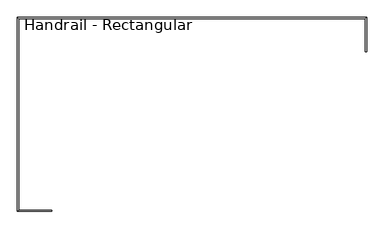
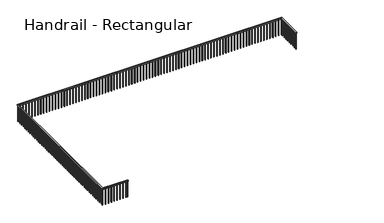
"""IFC4 building model written with IfcOpenShell, lengths in millimetres: railing geometry, Handrail - Rectangular."""

from ifc_helpers import new_model, si_unit, frame, origin, place, context, project, spatial, polyline, outline, extrude, faceted_brep, source, transform, mapped, element, save


def handrail_rectangular_5e4642fa(model_context):
    return source(origin(), model_context, "Body", "SolidModel", [
        faceted_brep([(-18781.6839563, 10624.0316867, 3962.4), (-18781.6839563, 10624.0316867, 3911.6), (-18730.8839563, 10624.0316867, 3911.6), (-18730.8839563, 10624.0316867, 3962.4), (-18730.8839563, 11970.2316867, 3962.4), (-18781.6839563, 11919.4316867, 3962.4), (-18730.8839563, 11970.2316867, 3911.6), (-18781.6839563, 11919.4316867, 3911.6), (-32446.8839563, 11970.2316867, 3962.4), (-32396.0839563, 11919.4316867, 3962.4), (-32446.8839563, 11970.2316867, 3911.6), (-32396.0839563, 11919.4316867, 3911.6), (-32446.8839563, 4350.2316867, 3962.4), (-32396.0839563, 4401.0316867, 3962.4), (-32446.8839563, 4350.2316867, 3911.6), (-32396.0839563, 4401.0316867, 3911.6), (-31100.6839563, 4401.0316867, 3962.4), (-31100.6839563, 4350.2316867, 3962.4), (-31100.6839563, 4350.2316867, 3911.6), (-31100.6839563, 4401.0316867, 3911.6)], [[[0, 1, 2, 3]], [[0, 3, 4, 5]], [[3, 2, 6, 4]], [[2, 1, 7, 6]], [[1, 0, 5, 7]], [[5, 4, 8, 9]], [[4, 6, 10, 8]], [[6, 7, 11, 10]], [[7, 5, 9, 11]], [[9, 8, 12, 13]], [[8, 10, 14, 12]], [[10, 11, 15, 14]], [[11, 9, 13, 15]], [[16, 17, 18, 19]], [[13, 12, 17, 16]], [[12, 14, 18, 17]], [[14, 15, 19, 18]], [[15, 13, 16, 19]]]),
        extrude(outline(polyline([(-31211.8089563, 4385.1566867), (-31192.7589563, 4385.1566867), (-31192.7589563, 4366.1066867), (-31211.8089563, 4366.1066867), (-31211.8089563, 4385.1566867)])), frame((0.0, 0.0, 3048.0), z_axis=(0.0, 0.0, 1.0), x_axis=(1.0, 0.0, 0.0)), (0.0, 0.0, 1.0), 863.6),
        extrude(outline(polyline([(-31364.2089563, 4385.1566867), (-31345.1589563, 4385.1566867), (-31345.1589563, 4366.1066867), (-31364.2089563, 4366.1066867), (-31364.2089563, 4385.1566867)])), frame((0.0, 0.0, 3048.0), z_axis=(0.0, 0.0, 1.0), x_axis=(1.0, 0.0, 0.0)), (0.0, 0.0, 1.0), 863.6),
        extrude(outline(polyline([(-31516.6089563, 4385.1566867), (-31497.5589563, 4385.1566867), (-31497.5589563, 4366.1066867), (-31516.6089563, 4366.1066867), (-31516.6089563, 4385.1566867)])), frame((0.0, 0.0, 3048.0), z_axis=(0.0, 0.0, 1.0), x_axis=(1.0, 0.0, 0.0)), (0.0, 0.0, 1.0), 863.6),
        extrude(outline(polyline([(-31669.0089563, 4385.1566867), (-31649.9589563, 4385.1566867), (-31649.9589563, 4366.1066867), (-31669.0089563, 4366.1066867), (-31669.0089563, 4385.1566867)])), frame((0.0, 0.0, 3048.0), z_axis=(0.0, 0.0, 1.0), x_axis=(1.0, 0.0, 0.0)), (0.0, 0.0, 1.0), 863.6),
        extrude(outline(polyline([(-31821.4089563, 4385.1566867), (-31802.3589563, 4385.1566867), (-31802.3589563, 4366.1066867), (-31821.4089563, 4366.1066867), (-31821.4089563, 4385.1566867)])), frame((0.0, 0.0, 3048.0), z_axis=(0.0, 0.0, 1.0), x_axis=(1.0, 0.0, 0.0)), (0.0, 0.0, 1.0), 863.6),
        extrude(outline(polyline([(-31973.8089563, 4385.1566867), (-31954.7589563, 4385.1566867), (-31954.7589563, 4366.1066867), (-31973.8089563, 4366.1066867), (-31973.8089563, 4385.1566867)])), frame((0.0, 0.0, 3048.0), z_axis=(0.0, 0.0, 1.0), x_axis=(1.0, 0.0, 0.0)), (0.0, 0.0, 1.0), 863.6),
        extrude(outline(polyline([(-32126.2089563, 4385.1566867), (-32107.1589563, 4385.1566867), (-32107.1589563, 4366.1066867), (-32126.2089563, 4366.1066867), (-32126.2089563, 4385.1566867)])), frame((0.0, 0.0, 3048.0), z_axis=(0.0, 0.0, 1.0), x_axis=(1.0, 0.0, 0.0)), (0.0, 0.0, 1.0), 863.6),
        extrude(outline(polyline([(-32278.6089563, 4385.1566867), (-32259.5589563, 4385.1566867), (-32259.5589563, 4366.1066867), (-32278.6089563, 4366.1066867), (-32278.6089563, 4385.1566867)])), frame((0.0, 0.0, 3048.0), z_axis=(0.0, 0.0, 1.0), x_axis=(1.0, 0.0, 0.0)), (0.0, 0.0, 1.0), 863.6),
        extrude(outline(polyline([(-32411.9589563, 4486.7566867), (-32411.9589563, 4467.7066867), (-32431.0089563, 4467.7066867), (-32431.0089563, 4486.7566867), (-32411.9589563, 4486.7566867)])), frame((0.0, 0.0, 3048.0), z_axis=(0.0, 0.0, 1.0), x_axis=(1.0, 0.0, 0.0)), (0.0, 0.0, 1.0), 863.6),
        extrude(outline(polyline([(-32411.9589563, 4639.1566867), (-32411.9589563, 4620.1066867), (-32431.0089563, 4620.1066867), (-32431.0089563, 4639.1566867), (-32411.9589563, 4639.1566867)])), frame((0.0, 0.0, 3048.0), z_axis=(0.0, 0.0, 1.0), x_axis=(1.0, 0.0, 0.0)), (0.0, 0.0, 1.0), 863.6),
        extrude(outline(polyline([(-32411.9589563, 4791.5566867), (-32411.9589563, 4772.5066867), (-32431.0089563, 4772.5066867), (-32431.0089563, 4791.5566867), (-32411.9589563, 4791.5566867)])), frame((0.0, 0.0, 3048.0), z_axis=(0.0, 0.0, 1.0), x_axis=(1.0, 0.0, 0.0)), (0.0, 0.0, 1.0), 863.6),
        extrude(outline(polyline([(-32411.9589563, 4943.9566867), (-32411.9589563, 4924.9066867), (-32431.0089563, 4924.9066867), (-32431.0089563, 4943.9566867), (-32411.9589563, 4943.9566867)])), frame((0.0, 0.0, 3048.0), z_axis=(0.0, 0.0, 1.0), x_axis=(1.0, 0.0, 0.0)), (0.0, 0.0, 1.0), 863.6),
        extrude(outline(polyline([(-32411.9589563, 5096.3566867), (-32411.9589563, 5077.3066867), (-32431.0089563, 5077.3066867), (-32431.0089563, 5096.3566867), (-32411.9589563, 5096.3566867)])), frame((0.0, 0.0, 3048.0), z_axis=(0.0, 0.0, 1.0), x_axis=(1.0, 0.0, 0.0)), (0.0, 0.0, 1.0), 863.6),
        extrude(outline(polyline([(-32411.9589563, 5248.7566867), (-32411.9589563, 5229.7066867), (-32431.0089563, 5229.7066867), (-32431.0089563, 5248.7566867), (-32411.9589563, 5248.7566867)])), frame((0.0, 0.0, 3048.0), z_axis=(0.0, 0.0, 1.0), x_axis=(1.0, 0.0, 0.0)), (0.0, 0.0, 1.0), 863.6),
        extrude(outline(polyline([(-32411.9589563, 5401.1566867), (-32411.9589563, 5382.1066867), (-32431.0089563, 5382.1066867), (-32431.0089563, 5401.1566867), (-32411.9589563, 5401.1566867)])), frame((0.0, 0.0, 3048.0), z_axis=(0.0, 0.0, 1.0), x_axis=(1.0, 0.0, 0.0)), (0.0, 0.0, 1.0), 863.6),
        extrude(outline(polyline([(-32411.9589563, 5553.5566867), (-32411.9589563, 5534.5066867), (-32431.0089563, 5534.5066867), (-32431.0089563, 5553.5566867), (-32411.9589563, 5553.5566867)])), frame((0.0, 0.0, 3048.0), z_axis=(0.0, 0.0, 1.0), x_axis=(1.0, 0.0, 0.0)), (0.0, 0.0, 1.0), 863.6),
        extrude(outline(polyline([(-32411.9589563, 5705.9566867), (-32411.9589563, 5686.9066867), (-32431.0089563, 5686.9066867), (-32431.0089563, 5705.9566867), (-32411.9589563, 5705.9566867)])), frame((0.0, 0.0, 3048.0), z_axis=(0.0, 0.0, 1.0), x_axis=(1.0, 0.0, 0.0)), (0.0, 0.0, 1.0), 863.6),
        extrude(outline(polyline([(-32411.9589563, 5858.3566867), (-32411.9589563, 5839.3066867), (-32431.0089563, 5839.3066867), (-32431.0089563, 5858.3566867), (-32411.9589563, 5858.3566867)])), frame((0.0, 0.0, 3048.0), z_axis=(0.0, 0.0, 1.0), x_axis=(1.0, 0.0, 0.0)), (0.0, 0.0, 1.0), 863.6),
        extrude(outline(polyline([(-32411.9589563, 6010.7566867), (-32411.9589563, 5991.7066867), (-32431.0089563, 5991.7066867), (-32431.0089563, 6010.7566867), (-32411.9589563, 6010.7566867)])), frame((0.0, 0.0, 3048.0), z_axis=(0.0, 0.0, 1.0), x_axis=(1.0, 0.0, 0.0)), (0.0, 0.0, 1.0), 863.6),
        extrude(outline(polyline([(-32411.9589563, 6163.1566867), (-32411.9589563, 6144.1066867), (-32431.0089563, 6144.1066867), (-32431.0089563, 6163.1566867), (-32411.9589563, 6163.1566867)])), frame((0.0, 0.0, 3048.0), z_axis=(0.0, 0.0, 1.0), x_axis=(1.0, 0.0, 0.0)), (0.0, 0.0, 1.0), 863.6),
        extrude(outline(polyline([(-32411.9589563, 6315.5566867), (-32411.9589563, 6296.5066867), (-32431.0089563, 6296.5066867), (-32431.0089563, 6315.5566867), (-32411.9589563, 6315.5566867)])), frame((0.0, 0.0, 3048.0), z_axis=(0.0, 0.0, 1.0), x_axis=(1.0, 0.0, 0.0)), (0.0, 0.0, 1.0), 863.6),
        extrude(outline(polyline([(-32411.9589563, 6467.9566867), (-32411.9589563, 6448.9066867), (-32431.0089563, 6448.9066867), (-32431.0089563, 6467.9566867), (-32411.9589563, 6467.9566867)])), frame((0.0, 0.0, 3048.0), z_axis=(0.0, 0.0, 1.0), x_axis=(1.0, 0.0, 0.0)), (0.0, 0.0, 1.0), 863.6),
        extrude(outline(polyline([(-32411.9589563, 6620.3566867), (-32411.9589563, 6601.3066867), (-32431.0089563, 6601.3066867), (-32431.0089563, 6620.3566867), (-32411.9589563, 6620.3566867)])), frame((0.0, 0.0, 3048.0), z_axis=(0.0, 0.0, 1.0), x_axis=(1.0, 0.0, 0.0)), (0.0, 0.0, 1.0), 863.6),
        extrude(outline(polyline([(-32411.9589563, 6772.7566867), (-32411.9589563, 6753.7066867), (-32431.0089563, 6753.7066867), (-32431.0089563, 6772.7566867), (-32411.9589563, 6772.7566867)])), frame((0.0, 0.0, 3048.0), z_axis=(0.0, 0.0, 1.0), x_axis=(1.0, 0.0, 0.0)), (0.0, 0.0, 1.0), 863.6),
        extrude(outline(polyline([(-32411.9589563, 6925.1566867), (-32411.9589563, 6906.1066867), (-32431.0089563, 6906.1066867), (-32431.0089563, 6925.1566867), (-32411.9589563, 6925.1566867)])), frame((0.0, 0.0, 3048.0), z_axis=(0.0, 0.0, 1.0), x_axis=(1.0, 0.0, 0.0)), (0.0, 0.0, 1.0), 863.6),
        extrude(outline(polyline([(-32411.9589563, 7077.5566867), (-32411.9589563, 7058.5066867), (-32431.0089563, 7058.5066867), (-32431.0089563, 7077.5566867), (-32411.9589563, 7077.5566867)])), frame((0.0, 0.0, 3048.0), z_axis=(0.0, 0.0, 1.0), x_axis=(1.0, 0.0, 0.0)), (0.0, 0.0, 1.0), 863.6),
        extrude(outline(polyline([(-32411.9589563, 7229.9566867), (-32411.9589563, 7210.9066867), (-32431.0089563, 7210.9066867), (-32431.0089563, 7229.9566867), (-32411.9589563, 7229.9566867)])), frame((0.0, 0.0, 3048.0), z_axis=(0.0, 0.0, 1.0), x_axis=(1.0, 0.0, 0.0)), (0.0, 0.0, 1.0), 863.6),
        extrude(outline(polyline([(-32411.9589563, 7382.3566867), (-32411.9589563, 7363.3066867), (-32431.0089563, 7363.3066867), (-32431.0089563, 7382.3566867), (-32411.9589563, 7382.3566867)])), frame((0.0, 0.0, 3048.0), z_axis=(0.0, 0.0, 1.0), x_axis=(1.0, 0.0, 0.0)), (0.0, 0.0, 1.0), 863.6),
        extrude(outline(polyline([(-32411.9589563, 7534.7566867), (-32411.9589563, 7515.7066867), (-32431.0089563, 7515.7066867), (-32431.0089563, 7534.7566867), (-32411.9589563, 7534.7566867)])), frame((0.0, 0.0, 3048.0), z_axis=(0.0, 0.0, 1.0), x_axis=(1.0, 0.0, 0.0)), (0.0, 0.0, 1.0), 863.6),
        extrude(outline(polyline([(-32411.9589563, 7687.1566867), (-32411.9589563, 7668.1066867), (-32431.0089563, 7668.1066867), (-32431.0089563, 7687.1566867), (-32411.9589563, 7687.1566867)])), frame((0.0, 0.0, 3048.0), z_axis=(0.0, 0.0, 1.0), x_axis=(1.0, 0.0, 0.0)), (0.0, 0.0, 1.0), 863.6),
        extrude(outline(polyline([(-32411.9589563, 7839.5566867), (-32411.9589563, 7820.5066867), (-32431.0089563, 7820.5066867), (-32431.0089563, 7839.5566867), (-32411.9589563, 7839.5566867)])), frame((0.0, 0.0, 3048.0), z_axis=(0.0, 0.0, 1.0), x_axis=(1.0, 0.0, 0.0)), (0.0, 0.0, 1.0), 863.6),
        extrude(outline(polyline([(-32411.9589563, 7991.9566867), (-32411.9589563, 7972.9066867), (-32431.0089563, 7972.9066867), (-32431.0089563, 7991.9566867), (-32411.9589563, 7991.9566867)])), frame((0.0, 0.0, 3048.0), z_axis=(0.0, 0.0, 1.0), x_axis=(1.0, 0.0, 0.0)), (0.0, 0.0, 1.0), 863.6),
        extrude(outline(polyline([(-32411.9589563, 8144.3566867), (-32411.9589563, 8125.3066867), (-32431.0089563, 8125.3066867), (-32431.0089563, 8144.3566867), (-32411.9589563, 8144.3566867)])), frame((0.0, 0.0, 3048.0), z_axis=(0.0, 0.0, 1.0), x_axis=(1.0, 0.0, 0.0)), (0.0, 0.0, 1.0), 863.6),
        extrude(outline(polyline([(-32411.9589563, 8296.7566867), (-32411.9589563, 8277.7066867), (-32431.0089563, 8277.7066867), (-32431.0089563, 8296.7566867), (-32411.9589563, 8296.7566867)])), frame((0.0, 0.0, 3048.0), z_axis=(0.0, 0.0, 1.0), x_axis=(1.0, 0.0, 0.0)), (0.0, 0.0, 1.0), 863.6),
        extrude(outline(polyline([(-32411.9589563, 8449.1566867), (-32411.9589563, 8430.1066867), (-32431.0089563, 8430.1066867), (-32431.0089563, 8449.1566867), (-32411.9589563, 8449.1566867)])), frame((0.0, 0.0, 3048.0), z_axis=(0.0, 0.0, 1.0), x_axis=(1.0, 0.0, 0.0)), (0.0, 0.0, 1.0), 863.6),
        extrude(outline(polyline([(-32411.9589563, 8601.5566867), (-32411.9589563, 8582.5066867), (-32431.0089563, 8582.5066867), (-32431.0089563, 8601.5566867), (-32411.9589563, 8601.5566867)])), frame((0.0, 0.0, 3048.0), z_axis=(0.0, 0.0, 1.0), x_axis=(1.0, 0.0, 0.0)), (0.0, 0.0, 1.0), 863.6),
        extrude(outline(polyline([(-32411.9589563, 8753.9566867), (-32411.9589563, 8734.9066867), (-32431.0089563, 8734.9066867), (-32431.0089563, 8753.9566867), (-32411.9589563, 8753.9566867)])), frame((0.0, 0.0, 3048.0), z_axis=(0.0, 0.0, 1.0), x_axis=(1.0, 0.0, 0.0)), (0.0, 0.0, 1.0), 863.6),
        extrude(outline(polyline([(-32411.9589563, 8906.3566867), (-32411.9589563, 8887.3066867), (-32431.0089563, 8887.3066867), (-32431.0089563, 8906.3566867), (-32411.9589563, 8906.3566867)])), frame((0.0, 0.0, 3048.0), z_axis=(0.0, 0.0, 1.0), x_axis=(1.0, 0.0, 0.0)), (0.0, 0.0, 1.0), 863.6),
        extrude(outline(polyline([(-32411.9589563, 9058.7566867), (-32411.9589563, 9039.7066867), (-32431.0089563, 9039.7066867), (-32431.0089563, 9058.7566867), (-32411.9589563, 9058.7566867)])), frame((0.0, 0.0, 3048.0), z_axis=(0.0, 0.0, 1.0), x_axis=(1.0, 0.0, 0.0)), (0.0, 0.0, 1.0), 863.6),
        extrude(outline(polyline([(-32411.9589563, 9211.1566867), (-32411.9589563, 9192.1066867), (-32431.0089563, 9192.1066867), (-32431.0089563, 9211.1566867), (-32411.9589563, 9211.1566867)])), frame((0.0, 0.0, 3048.0), z_axis=(0.0, 0.0, 1.0), x_axis=(1.0, 0.0, 0.0)), (0.0, 0.0, 1.0), 863.6),
        extrude(outline(polyline([(-32411.9589563, 9363.5566867), (-32411.9589563, 9344.5066867), (-32431.0089563, 9344.5066867), (-32431.0089563, 9363.5566867), (-32411.9589563, 9363.5566867)])), frame((0.0, 0.0, 3048.0), z_axis=(0.0, 0.0, 1.0), x_axis=(1.0, 0.0, 0.0)), (0.0, 0.0, 1.0), 863.6),
        extrude(outline(polyline([(-32411.9589563, 9515.9566867), (-32411.9589563, 9496.9066867), (-32431.0089563, 9496.9066867), (-32431.0089563, 9515.9566867), (-32411.9589563, 9515.9566867)])), frame((0.0, 0.0, 3048.0), z_axis=(0.0, 0.0, 1.0), x_axis=(1.0, 0.0, 0.0)), (0.0, 0.0, 1.0), 863.6),
        extrude(outline(polyline([(-32411.9589563, 9668.3566867), (-32411.9589563, 9649.3066867), (-32431.0089563, 9649.3066867), (-32431.0089563, 9668.3566867), (-32411.9589563, 9668.3566867)])), frame((0.0, 0.0, 3048.0), z_axis=(0.0, 0.0, 1.0), x_axis=(1.0, 0.0, 0.0)), (0.0, 0.0, 1.0), 863.6),
        extrude(outline(polyline([(-32411.9589563, 9820.7566867), (-32411.9589563, 9801.7066867), (-32431.0089563, 9801.7066867), (-32431.0089563, 9820.7566867), (-32411.9589563, 9820.7566867)])), frame((0.0, 0.0, 3048.0), z_axis=(0.0, 0.0, 1.0), x_axis=(1.0, 0.0, 0.0)), (0.0, 0.0, 1.0), 863.6),
        extrude(outline(polyline([(-32411.9589563, 9973.1566867), (-32411.9589563, 9954.1066867), (-32431.0089563, 9954.1066867), (-32431.0089563, 9973.1566867), (-32411.9589563, 9973.1566867)])), frame((0.0, 0.0, 3048.0), z_axis=(0.0, 0.0, 1.0), x_axis=(1.0, 0.0, 0.0)), (0.0, 0.0, 1.0), 863.6),
        extrude(outline(polyline([(-32411.9589563, 10125.5566867), (-32411.9589563, 10106.5066867), (-32431.0089563, 10106.5066867), (-32431.0089563, 10125.5566867), (-32411.9589563, 10125.5566867)])), frame((0.0, 0.0, 3048.0), z_axis=(0.0, 0.0, 1.0), x_axis=(1.0, 0.0, 0.0)), (0.0, 0.0, 1.0), 863.6),
        extrude(outline(polyline([(-32411.9589563, 10277.9566867), (-32411.9589563, 10258.9066867), (-32431.0089563, 10258.9066867), (-32431.0089563, 10277.9566867), (-32411.9589563, 10277.9566867)])), frame((0.0, 0.0, 3048.0), z_axis=(0.0, 0.0, 1.0), x_axis=(1.0, 0.0, 0.0)), (0.0, 0.0, 1.0), 863.6),
        extrude(outline(polyline([(-32411.9589563, 10430.3566867), (-32411.9589563, 10411.3066867), (-32431.0089563, 10411.3066867), (-32431.0089563, 10430.3566867), (-32411.9589563, 10430.3566867)])), frame((0.0, 0.0, 3048.0), z_axis=(0.0, 0.0, 1.0), x_axis=(1.0, 0.0, 0.0)), (0.0, 0.0, 1.0), 863.6),
        extrude(outline(polyline([(-32411.9589563, 10582.7566867), (-32411.9589563, 10563.7066867), (-32431.0089563, 10563.7066867), (-32431.0089563, 10582.7566867), (-32411.9589563, 10582.7566867)])), frame((0.0, 0.0, 3048.0), z_axis=(0.0, 0.0, 1.0), x_axis=(1.0, 0.0, 0.0)), (0.0, 0.0, 1.0), 863.6),
        extrude(outline(polyline([(-32411.9589563, 10735.1566867), (-32411.9589563, 10716.1066867), (-32431.0089563, 10716.1066867), (-32431.0089563, 10735.1566867), (-32411.9589563, 10735.1566867)])), frame((0.0, 0.0, 3048.0), z_axis=(0.0, 0.0, 1.0), x_axis=(1.0, 0.0, 0.0)), (0.0, 0.0, 1.0), 863.6),
        extrude(outline(polyline([(-32411.9589563, 10887.5566867), (-32411.9589563, 10868.5066867), (-32431.0089563, 10868.5066867), (-32431.0089563, 10887.5566867), (-32411.9589563, 10887.5566867)])), frame((0.0, 0.0, 3048.0), z_axis=(0.0, 0.0, 1.0), x_axis=(1.0, 0.0, 0.0)), (0.0, 0.0, 1.0), 863.6),
        extrude(outline(polyline([(-32411.9589563, 11039.9566867), (-32411.9589563, 11020.9066867), (-32431.0089563, 11020.9066867), (-32431.0089563, 11039.9566867), (-32411.9589563, 11039.9566867)])), frame((0.0, 0.0, 3048.0), z_axis=(0.0, 0.0, 1.0), x_axis=(1.0, 0.0, 0.0)), (0.0, 0.0, 1.0), 863.6),
        extrude(outline(polyline([(-32411.9589563, 11192.3566867), (-32411.9589563, 11173.3066867), (-32431.0089563, 11173.3066867), (-32431.0089563, 11192.3566867), (-32411.9589563, 11192.3566867)])), frame((0.0, 0.0, 3048.0), z_axis=(0.0, 0.0, 1.0), x_axis=(1.0, 0.0, 0.0)), (0.0, 0.0, 1.0), 863.6),
        extrude(outline(polyline([(-32411.9589563, 11344.7566867), (-32411.9589563, 11325.7066867), (-32431.0089563, 11325.7066867), (-32431.0089563, 11344.7566867), (-32411.9589563, 11344.7566867)])), frame((0.0, 0.0, 3048.0), z_axis=(0.0, 0.0, 1.0), x_axis=(1.0, 0.0, 0.0)), (0.0, 0.0, 1.0), 863.6),
        extrude(outline(polyline([(-32411.9589563, 11497.1566867), (-32411.9589563, 11478.1066867), (-32431.0089563, 11478.1066867), (-32431.0089563, 11497.1566867), (-32411.9589563, 11497.1566867)])), frame((0.0, 0.0, 3048.0), z_axis=(0.0, 0.0, 1.0), x_axis=(1.0, 0.0, 0.0)), (0.0, 0.0, 1.0), 863.6),
        extrude(outline(polyline([(-32411.9589563, 11649.5566867), (-32411.9589563, 11630.5066867), (-32431.0089563, 11630.5066867), (-32431.0089563, 11649.5566867), (-32411.9589563, 11649.5566867)])), frame((0.0, 0.0, 3048.0), z_axis=(0.0, 0.0, 1.0), x_axis=(1.0, 0.0, 0.0)), (0.0, 0.0, 1.0), 863.6),
        extrude(outline(polyline([(-32411.9589563, 11801.9566867), (-32411.9589563, 11782.9066867), (-32431.0089563, 11782.9066867), (-32431.0089563, 11801.9566867), (-32411.9589563, 11801.9566867)])), frame((0.0, 0.0, 3048.0), z_axis=(0.0, 0.0, 1.0), x_axis=(1.0, 0.0, 0.0)), (0.0, 0.0, 1.0), 863.6),
        extrude(outline(polyline([(-32310.3589563, 11935.3066867), (-32329.4089563, 11935.3066867), (-32329.4089563, 11954.3566867), (-32310.3589563, 11954.3566867), (-32310.3589563, 11935.3066867)])), frame((0.0, 0.0, 3048.0), z_axis=(0.0, 0.0, 1.0), x_axis=(1.0, 0.0, 0.0)), (0.0, 0.0, 1.0), 863.6),
        extrude(outline(polyline([(-32157.9589563, 11935.3066867), (-32177.0089563, 11935.3066867), (-32177.0089563, 11954.3566867), (-32157.9589563, 11954.3566867), (-32157.9589563, 11935.3066867)])), frame((0.0, 0.0, 3048.0), z_axis=(0.0, 0.0, 1.0), x_axis=(1.0, 0.0, 0.0)), (0.0, 0.0, 1.0), 863.6),
        extrude(outline(polyline([(-32005.5589563, 11935.3066867), (-32024.6089563, 11935.3066867), (-32024.6089563, 11954.3566867), (-32005.5589563, 11954.3566867), (-32005.5589563, 11935.3066867)])), frame((0.0, 0.0, 3048.0), z_axis=(0.0, 0.0, 1.0), x_axis=(1.0, 0.0, 0.0)), (0.0, 0.0, 1.0), 863.6),
        extrude(outline(polyline([(-31853.1589563, 11935.3066867), (-31872.2089563, 11935.3066867), (-31872.2089563, 11954.3566867), (-31853.1589563, 11954.3566867), (-31853.1589563, 11935.3066867)])), frame((0.0, 0.0, 3048.0), z_axis=(0.0, 0.0, 1.0), x_axis=(1.0, 0.0, 0.0)), (0.0, 0.0, 1.0), 863.6),
        extrude(outline(polyline([(-31700.7589563, 11935.3066867), (-31719.8089563, 11935.3066867), (-31719.8089563, 11954.3566867), (-31700.7589563, 11954.3566867), (-31700.7589563, 11935.3066867)])), frame((0.0, 0.0, 3048.0), z_axis=(0.0, 0.0, 1.0), x_axis=(1.0, 0.0, 0.0)), (0.0, 0.0, 1.0), 863.6),
        extrude(outline(polyline([(-31548.3589563, 11935.3066867), (-31567.4089563, 11935.3066867), (-31567.4089563, 11954.3566867), (-31548.3589563, 11954.3566867), (-31548.3589563, 11935.3066867)])), frame((0.0, 0.0, 3048.0), z_axis=(0.0, 0.0, 1.0), x_axis=(1.0, 0.0, 0.0)), (0.0, 0.0, 1.0), 863.6),
        extrude(outline(polyline([(-31395.9589563, 11935.3066867), (-31415.0089563, 11935.3066867), (-31415.0089563, 11954.3566867), (-31395.9589563, 11954.3566867), (-31395.9589563, 11935.3066867)])), frame((0.0, 0.0, 3048.0), z_axis=(0.0, 0.0, 1.0), x_axis=(1.0, 0.0, 0.0)), (0.0, 0.0, 1.0), 863.6),
        extrude(outline(polyline([(-31243.5589563, 11935.3066867), (-31262.6089563, 11935.3066867), (-31262.6089563, 11954.3566867), (-31243.5589563, 11954.3566867), (-31243.5589563, 11935.3066867)])), frame((0.0, 0.0, 3048.0), z_axis=(0.0, 0.0, 1.0), x_axis=(1.0, 0.0, 0.0)), (0.0, 0.0, 1.0), 863.6),
        extrude(outline(polyline([(-31091.1589563, 11935.3066867), (-31110.2089563, 11935.3066867), (-31110.2089563, 11954.3566867), (-31091.1589563, 11954.3566867), (-31091.1589563, 11935.3066867)])), frame((0.0, 0.0, 3048.0), z_axis=(0.0, 0.0, 1.0), x_axis=(1.0, 0.0, 0.0)), (0.0, 0.0, 1.0), 863.6),
        extrude(outline(polyline([(-30938.7589563, 11935.3066867), (-30957.8089563, 11935.3066867), (-30957.8089563, 11954.3566867), (-30938.7589563, 11954.3566867), (-30938.7589563, 11935.3066867)])), frame((0.0, 0.0, 3048.0), z_axis=(0.0, 0.0, 1.0), x_axis=(1.0, 0.0, 0.0)), (0.0, 0.0, 1.0), 863.6),
        extrude(outline(polyline([(-30786.3589563, 11935.3066867), (-30805.4089563, 11935.3066867), (-30805.4089563, 11954.3566867), (-30786.3589563, 11954.3566867), (-30786.3589563, 11935.3066867)])), frame((0.0, 0.0, 3048.0), z_axis=(0.0, 0.0, 1.0), x_axis=(1.0, 0.0, 0.0)), (0.0, 0.0, 1.0), 863.6),
        extrude(outline(polyline([(-30633.9589563, 11935.3066867), (-30653.0089563, 11935.3066867), (-30653.0089563, 11954.3566867), (-30633.9589563, 11954.3566867), (-30633.9589563, 11935.3066867)])), frame((0.0, 0.0, 3048.0), z_axis=(0.0, 0.0, 1.0), x_axis=(1.0, 0.0, 0.0)), (0.0, 0.0, 1.0), 863.6),
        extrude(outline(polyline([(-30481.5589563, 11935.3066867), (-30500.6089563, 11935.3066867), (-30500.6089563, 11954.3566867), (-30481.5589563, 11954.3566867), (-30481.5589563, 11935.3066867)])), frame((0.0, 0.0, 3048.0), z_axis=(0.0, 0.0, 1.0), x_axis=(1.0, 0.0, 0.0)), (0.0, 0.0, 1.0), 863.6),
        extrude(outline(polyline([(-30329.1589563, 11935.3066867), (-30348.2089563, 11935.3066867), (-30348.2089563, 11954.3566867), (-30329.1589563, 11954.3566867), (-30329.1589563, 11935.3066867)])), frame((0.0, 0.0, 3048.0), z_axis=(0.0, 0.0, 1.0), x_axis=(1.0, 0.0, 0.0)), (0.0, 0.0, 1.0), 863.6),
        extrude(outline(polyline([(-30176.7589563, 11935.3066867), (-30195.8089563, 11935.3066867), (-30195.8089563, 11954.3566867), (-30176.7589563, 11954.3566867), (-30176.7589563, 11935.3066867)])), frame((0.0, 0.0, 3048.0), z_axis=(0.0, 0.0, 1.0), x_axis=(1.0, 0.0, 0.0)), (0.0, 0.0, 1.0), 863.6),
        extrude(outline(polyline([(-30024.3589563, 11935.3066867), (-30043.4089563, 11935.3066867), (-30043.4089563, 11954.3566867), (-30024.3589563, 11954.3566867), (-30024.3589563, 11935.3066867)])), frame((0.0, 0.0, 3048.0), z_axis=(0.0, 0.0, 1.0), x_axis=(1.0, 0.0, 0.0)), (0.0, 0.0, 1.0), 863.6),
        extrude(outline(polyline([(-29871.9589563, 11935.3066867), (-29891.0089563, 11935.3066867), (-29891.0089563, 11954.3566867), (-29871.9589563, 11954.3566867), (-29871.9589563, 11935.3066867)])), frame((0.0, 0.0, 3048.0), z_axis=(0.0, 0.0, 1.0), x_axis=(1.0, 0.0, 0.0)), (0.0, 0.0, 1.0), 863.6),
        extrude(outline(polyline([(-29719.5589563, 11935.3066867), (-29738.6089563, 11935.3066867), (-29738.6089563, 11954.3566867), (-29719.5589563, 11954.3566867), (-29719.5589563, 11935.3066867)])), frame((0.0, 0.0, 3048.0), z_axis=(0.0, 0.0, 1.0), x_axis=(1.0, 0.0, 0.0)), (0.0, 0.0, 1.0), 863.6),
        extrude(outline(polyline([(-29567.1589563, 11935.3066867), (-29586.2089563, 11935.3066867), (-29586.2089563, 11954.3566867), (-29567.1589563, 11954.3566867), (-29567.1589563, 11935.3066867)])), frame((0.0, 0.0, 3048.0), z_axis=(0.0, 0.0, 1.0), x_axis=(1.0, 0.0, 0.0)), (0.0, 0.0, 1.0), 863.6),
        extrude(outline(polyline([(-29414.7589563, 11935.3066867), (-29433.8089563, 11935.3066867), (-29433.8089563, 11954.3566867), (-29414.7589563, 11954.3566867), (-29414.7589563, 11935.3066867)])), frame((0.0, 0.0, 3048.0), z_axis=(0.0, 0.0, 1.0), x_axis=(1.0, 0.0, 0.0)), (0.0, 0.0, 1.0), 863.6),
        extrude(outline(polyline([(-29262.3589563, 11935.3066867), (-29281.4089563, 11935.3066867), (-29281.4089563, 11954.3566867), (-29262.3589563, 11954.3566867), (-29262.3589563, 11935.3066867)])), frame((0.0, 0.0, 3048.0), z_axis=(0.0, 0.0, 1.0), x_axis=(1.0, 0.0, 0.0)), (0.0, 0.0, 1.0), 863.6),
        extrude(outline(polyline([(-29109.9589563, 11935.3066867), (-29129.0089563, 11935.3066867), (-29129.0089563, 11954.3566867), (-29109.9589563, 11954.3566867), (-29109.9589563, 11935.3066867)])), frame((0.0, 0.0, 3048.0), z_axis=(0.0, 0.0, 1.0), x_axis=(1.0, 0.0, 0.0)), (0.0, 0.0, 1.0), 863.6),
        extrude(outline(polyline([(-28957.5589563, 11935.3066867), (-28976.6089563, 11935.3066867), (-28976.6089563, 11954.3566867), (-28957.5589563, 11954.3566867), (-28957.5589563, 11935.3066867)])), frame((0.0, 0.0, 3048.0), z_axis=(0.0, 0.0, 1.0), x_axis=(1.0, 0.0, 0.0)), (0.0, 0.0, 1.0), 863.6),
        extrude(outline(polyline([(-28805.1589563, 11935.3066867), (-28824.2089563, 11935.3066867), (-28824.2089563, 11954.3566867), (-28805.1589563, 11954.3566867), (-28805.1589563, 11935.3066867)])), frame((0.0, 0.0, 3048.0), z_axis=(0.0, 0.0, 1.0), x_axis=(1.0, 0.0, 0.0)), (0.0, 0.0, 1.0), 863.6),
        extrude(outline(polyline([(-28652.7589563, 11935.3066867), (-28671.8089563, 11935.3066867), (-28671.8089563, 11954.3566867), (-28652.7589563, 11954.3566867), (-28652.7589563, 11935.3066867)])), frame((0.0, 0.0, 3048.0), z_axis=(0.0, 0.0, 1.0), x_axis=(1.0, 0.0, 0.0)), (0.0, 0.0, 1.0), 863.6),
        extrude(outline(polyline([(-28500.3589563, 11935.3066867), (-28519.4089563, 11935.3066867), (-28519.4089563, 11954.3566867), (-28500.3589563, 11954.3566867), (-28500.3589563, 11935.3066867)])), frame((0.0, 0.0, 3048.0), z_axis=(0.0, 0.0, 1.0), x_axis=(1.0, 0.0, 0.0)), (0.0, 0.0, 1.0), 863.6),
        extrude(outline(polyline([(-28347.9589563, 11935.3066867), (-28367.0089563, 11935.3066867), (-28367.0089563, 11954.3566867), (-28347.9589563, 11954.3566867), (-28347.9589563, 11935.3066867)])), frame((0.0, 0.0, 3048.0), z_axis=(0.0, 0.0, 1.0), x_axis=(1.0, 0.0, 0.0)), (0.0, 0.0, 1.0), 863.6),
        extrude(outline(polyline([(-28195.5589563, 11935.3066867), (-28214.6089563, 11935.3066867), (-28214.6089563, 11954.3566867), (-28195.5589563, 11954.3566867), (-28195.5589563, 11935.3066867)])), frame((0.0, 0.0, 3048.0), z_axis=(0.0, 0.0, 1.0), x_axis=(1.0, 0.0, 0.0)), (0.0, 0.0, 1.0), 863.6),
        extrude(outline(polyline([(-28043.1589563, 11935.3066867), (-28062.2089563, 11935.3066867), (-28062.2089563, 11954.3566867), (-28043.1589563, 11954.3566867), (-28043.1589563, 11935.3066867)])), frame((0.0, 0.0, 3048.0), z_axis=(0.0, 0.0, 1.0), x_axis=(1.0, 0.0, 0.0)), (0.0, 0.0, 1.0), 863.6),
        extrude(outline(polyline([(-27890.7589563, 11935.3066867), (-27909.8089563, 11935.3066867), (-27909.8089563, 11954.3566867), (-27890.7589563, 11954.3566867), (-27890.7589563, 11935.3066867)])), frame((0.0, 0.0, 3048.0), z_axis=(0.0, 0.0, 1.0), x_axis=(1.0, 0.0, 0.0)), (0.0, 0.0, 1.0), 863.6),
        extrude(outline(polyline([(-27738.3589563, 11935.3066867), (-27757.4089563, 11935.3066867), (-27757.4089563, 11954.3566867), (-27738.3589563, 11954.3566867), (-27738.3589563, 11935.3066867)])), frame((0.0, 0.0, 3048.0), z_axis=(0.0, 0.0, 1.0), x_axis=(1.0, 0.0, 0.0)), (0.0, 0.0, 1.0), 863.6),
        extrude(outline(polyline([(-27585.9589563, 11935.3066867), (-27605.0089563, 11935.3066867), (-27605.0089563, 11954.3566867), (-27585.9589563, 11954.3566867), (-27585.9589563, 11935.3066867)])), frame((0.0, 0.0, 3048.0), z_axis=(0.0, 0.0, 1.0), x_axis=(1.0, 0.0, 0.0)), (0.0, 0.0, 1.0), 863.6),
        extrude(outline(polyline([(-27433.5589563, 11935.3066867), (-27452.6089563, 11935.3066867), (-27452.6089563, 11954.3566867), (-27433.5589563, 11954.3566867), (-27433.5589563, 11935.3066867)])), frame((0.0, 0.0, 3048.0), z_axis=(0.0, 0.0, 1.0), x_axis=(1.0, 0.0, 0.0)), (0.0, 0.0, 1.0), 863.6),
        extrude(outline(polyline([(-27281.1589563, 11935.3066867), (-27300.2089563, 11935.3066867), (-27300.2089563, 11954.3566867), (-27281.1589563, 11954.3566867), (-27281.1589563, 11935.3066867)])), frame((0.0, 0.0, 3048.0), z_axis=(0.0, 0.0, 1.0), x_axis=(1.0, 0.0, 0.0)), (0.0, 0.0, 1.0), 863.6),
        extrude(outline(polyline([(-27128.7589563, 11935.3066867), (-27147.8089563, 11935.3066867), (-27147.8089563, 11954.3566867), (-27128.7589563, 11954.3566867), (-27128.7589563, 11935.3066867)])), frame((0.0, 0.0, 3048.0), z_axis=(0.0, 0.0, 1.0), x_axis=(1.0, 0.0, 0.0)), (0.0, 0.0, 1.0), 863.6),
        extrude(outline(polyline([(-26976.3589563, 11935.3066867), (-26995.4089563, 11935.3066867), (-26995.4089563, 11954.3566867), (-26976.3589563, 11954.3566867), (-26976.3589563, 11935.3066867)])), frame((0.0, 0.0, 3048.0), z_axis=(0.0, 0.0, 1.0), x_axis=(1.0, 0.0, 0.0)), (0.0, 0.0, 1.0), 863.6),
        extrude(outline(polyline([(-26823.9589563, 11935.3066867), (-26843.0089563, 11935.3066867), (-26843.0089563, 11954.3566867), (-26823.9589563, 11954.3566867), (-26823.9589563, 11935.3066867)])), frame((0.0, 0.0, 3048.0), z_axis=(0.0, 0.0, 1.0), x_axis=(1.0, 0.0, 0.0)), (0.0, 0.0, 1.0), 863.6),
        extrude(outline(polyline([(-26671.5589563, 11935.3066867), (-26690.6089563, 11935.3066867), (-26690.6089563, 11954.3566867), (-26671.5589563, 11954.3566867), (-26671.5589563, 11935.3066867)])), frame((0.0, 0.0, 3048.0), z_axis=(0.0, 0.0, 1.0), x_axis=(1.0, 0.0, 0.0)), (0.0, 0.0, 1.0), 863.6),
        extrude(outline(polyline([(-26519.1589563, 11935.3066867), (-26538.2089563, 11935.3066867), (-26538.2089563, 11954.3566867), (-26519.1589563, 11954.3566867), (-26519.1589563, 11935.3066867)])), frame((0.0, 0.0, 3048.0), z_axis=(0.0, 0.0, 1.0), x_axis=(1.0, 0.0, 0.0)), (0.0, 0.0, 1.0), 863.6),
        extrude(outline(polyline([(-26366.7589563, 11935.3066867), (-26385.8089563, 11935.3066867), (-26385.8089563, 11954.3566867), (-26366.7589563, 11954.3566867), (-26366.7589563, 11935.3066867)])), frame((0.0, 0.0, 3048.0), z_axis=(0.0, 0.0, 1.0), x_axis=(1.0, 0.0, 0.0)), (0.0, 0.0, 1.0), 863.6),
        extrude(outline(polyline([(-26214.3589563, 11935.3066867), (-26233.4089563, 11935.3066867), (-26233.4089563, 11954.3566867), (-26214.3589563, 11954.3566867), (-26214.3589563, 11935.3066867)])), frame((0.0, 0.0, 3048.0), z_axis=(0.0, 0.0, 1.0), x_axis=(1.0, 0.0, 0.0)), (0.0, 0.0, 1.0), 863.6),
        extrude(outline(polyline([(-26061.9589563, 11935.3066867), (-26081.0089563, 11935.3066867), (-26081.0089563, 11954.3566867), (-26061.9589563, 11954.3566867), (-26061.9589563, 11935.3066867)])), frame((0.0, 0.0, 3048.0), z_axis=(0.0, 0.0, 1.0), x_axis=(1.0, 0.0, 0.0)), (0.0, 0.0, 1.0), 863.6),
        extrude(outline(polyline([(-25909.5589563, 11935.3066867), (-25928.6089563, 11935.3066867), (-25928.6089563, 11954.3566867), (-25909.5589563, 11954.3566867), (-25909.5589563, 11935.3066867)])), frame((0.0, 0.0, 3048.0), z_axis=(0.0, 0.0, 1.0), x_axis=(1.0, 0.0, 0.0)), (0.0, 0.0, 1.0), 863.6),
        extrude(outline(polyline([(-25757.1589563, 11935.3066867), (-25776.2089563, 11935.3066867), (-25776.2089563, 11954.3566867), (-25757.1589563, 11954.3566867), (-25757.1589563, 11935.3066867)])), frame((0.0, 0.0, 3048.0), z_axis=(0.0, 0.0, 1.0), x_axis=(1.0, 0.0, 0.0)), (0.0, 0.0, 1.0), 863.6),
        extrude(outline(polyline([(-25604.7589563, 11935.3066867), (-25623.8089563, 11935.3066867), (-25623.8089563, 11954.3566867), (-25604.7589563, 11954.3566867), (-25604.7589563, 11935.3066867)])), frame((0.0, 0.0, 3048.0), z_axis=(0.0, 0.0, 1.0), x_axis=(1.0, 0.0, 0.0)), (0.0, 0.0, 1.0), 863.6),
        extrude(outline(polyline([(-25452.3589563, 11935.3066867), (-25471.4089563, 11935.3066867), (-25471.4089563, 11954.3566867), (-25452.3589563, 11954.3566867), (-25452.3589563, 11935.3066867)])), frame((0.0, 0.0, 3048.0), z_axis=(0.0, 0.0, 1.0), x_axis=(1.0, 0.0, 0.0)), (0.0, 0.0, 1.0), 863.6),
        extrude(outline(polyline([(-25299.9589563, 11935.3066867), (-25319.0089563, 11935.3066867), (-25319.0089563, 11954.3566867), (-25299.9589563, 11954.3566867), (-25299.9589563, 11935.3066867)])), frame((0.0, 0.0, 3048.0), z_axis=(0.0, 0.0, 1.0), x_axis=(1.0, 0.0, 0.0)), (0.0, 0.0, 1.0), 863.6),
        extrude(outline(polyline([(-25147.5589563, 11935.3066867), (-25166.6089563, 11935.3066867), (-25166.6089563, 11954.3566867), (-25147.5589563, 11954.3566867), (-25147.5589563, 11935.3066867)])), frame((0.0, 0.0, 3048.0), z_axis=(0.0, 0.0, 1.0), x_axis=(1.0, 0.0, 0.0)), (0.0, 0.0, 1.0), 863.6),
        extrude(outline(polyline([(-24995.1589563, 11935.3066867), (-25014.2089563, 11935.3066867), (-25014.2089563, 11954.3566867), (-24995.1589563, 11954.3566867), (-24995.1589563, 11935.3066867)])), frame((0.0, 0.0, 3048.0), z_axis=(0.0, 0.0, 1.0), x_axis=(1.0, 0.0, 0.0)), (0.0, 0.0, 1.0), 863.6),
        extrude(outline(polyline([(-24842.7589563, 11935.3066867), (-24861.8089563, 11935.3066867), (-24861.8089563, 11954.3566867), (-24842.7589563, 11954.3566867), (-24842.7589563, 11935.3066867)])), frame((0.0, 0.0, 3048.0), z_axis=(0.0, 0.0, 1.0), x_axis=(1.0, 0.0, 0.0)), (0.0, 0.0, 1.0), 863.6),
        extrude(outline(polyline([(-24690.3589563, 11935.3066867), (-24709.4089563, 11935.3066867), (-24709.4089563, 11954.3566867), (-24690.3589563, 11954.3566867), (-24690.3589563, 11935.3066867)])), frame((0.0, 0.0, 3048.0), z_axis=(0.0, 0.0, 1.0), x_axis=(1.0, 0.0, 0.0)), (0.0, 0.0, 1.0), 863.6),
        extrude(outline(polyline([(-24537.9589563, 11935.3066867), (-24557.0089563, 11935.3066867), (-24557.0089563, 11954.3566867), (-24537.9589563, 11954.3566867), (-24537.9589563, 11935.3066867)])), frame((0.0, 0.0, 3048.0), z_axis=(0.0, 0.0, 1.0), x_axis=(1.0, 0.0, 0.0)), (0.0, 0.0, 1.0), 863.6),
        extrude(outline(polyline([(-24385.5589563, 11935.3066867), (-24404.6089563, 11935.3066867), (-24404.6089563, 11954.3566867), (-24385.5589563, 11954.3566867), (-24385.5589563, 11935.3066867)])), frame((0.0, 0.0, 3048.0), z_axis=(0.0, 0.0, 1.0), x_axis=(1.0, 0.0, 0.0)), (0.0, 0.0, 1.0), 863.6),
        extrude(outline(polyline([(-24233.1589563, 11935.3066867), (-24252.2089563, 11935.3066867), (-24252.2089563, 11954.3566867), (-24233.1589563, 11954.3566867), (-24233.1589563, 11935.3066867)])), frame((0.0, 0.0, 3048.0), z_axis=(0.0, 0.0, 1.0), x_axis=(1.0, 0.0, 0.0)), (0.0, 0.0, 1.0), 863.6),
        extrude(outline(polyline([(-24080.7589563, 11935.3066867), (-24099.8089563, 11935.3066867), (-24099.8089563, 11954.3566867), (-24080.7589563, 11954.3566867), (-24080.7589563, 11935.3066867)])), frame((0.0, 0.0, 3048.0), z_axis=(0.0, 0.0, 1.0), x_axis=(1.0, 0.0, 0.0)), (0.0, 0.0, 1.0), 863.6),
        extrude(outline(polyline([(-23928.3589563, 11935.3066867), (-23947.4089563, 11935.3066867), (-23947.4089563, 11954.3566867), (-23928.3589563, 11954.3566867), (-23928.3589563, 11935.3066867)])), frame((0.0, 0.0, 3048.0), z_axis=(0.0, 0.0, 1.0), x_axis=(1.0, 0.0, 0.0)), (0.0, 0.0, 1.0), 863.6),
        extrude(outline(polyline([(-23775.9589563, 11935.3066867), (-23795.0089563, 11935.3066867), (-23795.0089563, 11954.3566867), (-23775.9589563, 11954.3566867), (-23775.9589563, 11935.3066867)])), frame((0.0, 0.0, 3048.0), z_axis=(0.0, 0.0, 1.0), x_axis=(1.0, 0.0, 0.0)), (0.0, 0.0, 1.0), 863.6),
        extrude(outline(polyline([(-23623.5589563, 11935.3066867), (-23642.6089563, 11935.3066867), (-23642.6089563, 11954.3566867), (-23623.5589563, 11954.3566867), (-23623.5589563, 11935.3066867)])), frame((0.0, 0.0, 3048.0), z_axis=(0.0, 0.0, 1.0), x_axis=(1.0, 0.0, 0.0)), (0.0, 0.0, 1.0), 863.6),
        extrude(outline(polyline([(-23471.1589563, 11935.3066867), (-23490.2089563, 11935.3066867), (-23490.2089563, 11954.3566867), (-23471.1589563, 11954.3566867), (-23471.1589563, 11935.3066867)])), frame((0.0, 0.0, 3048.0), z_axis=(0.0, 0.0, 1.0), x_axis=(1.0, 0.0, 0.0)), (0.0, 0.0, 1.0), 863.6),
        extrude(outline(polyline([(-23318.7589563, 11935.3066867), (-23337.8089563, 11935.3066867), (-23337.8089563, 11954.3566867), (-23318.7589563, 11954.3566867), (-23318.7589563, 11935.3066867)])), frame((0.0, 0.0, 3048.0), z_axis=(0.0, 0.0, 1.0), x_axis=(1.0, 0.0, 0.0)), (0.0, 0.0, 1.0), 863.6),
        extrude(outline(polyline([(-23166.3589563, 11935.3066867), (-23185.4089563, 11935.3066867), (-23185.4089563, 11954.3566867), (-23166.3589563, 11954.3566867), (-23166.3589563, 11935.3066867)])), frame((0.0, 0.0, 3048.0), z_axis=(0.0, 0.0, 1.0), x_axis=(1.0, 0.0, 0.0)), (0.0, 0.0, 1.0), 863.6),
        extrude(outline(polyline([(-23013.9589563, 11935.3066867), (-23033.0089563, 11935.3066867), (-23033.0089563, 11954.3566867), (-23013.9589563, 11954.3566867), (-23013.9589563, 11935.3066867)])), frame((0.0, 0.0, 3048.0), z_axis=(0.0, 0.0, 1.0), x_axis=(1.0, 0.0, 0.0)), (0.0, 0.0, 1.0), 863.6),
        extrude(outline(polyline([(-22861.5589563, 11935.3066867), (-22880.6089563, 11935.3066867), (-22880.6089563, 11954.3566867), (-22861.5589563, 11954.3566867), (-22861.5589563, 11935.3066867)])), frame((0.0, 0.0, 3048.0), z_axis=(0.0, 0.0, 1.0), x_axis=(1.0, 0.0, 0.0)), (0.0, 0.0, 1.0), 863.6),
        extrude(outline(polyline([(-22709.1589563, 11935.3066867), (-22728.2089563, 11935.3066867), (-22728.2089563, 11954.3566867), (-22709.1589563, 11954.3566867), (-22709.1589563, 11935.3066867)])), frame((0.0, 0.0, 3048.0), z_axis=(0.0, 0.0, 1.0), x_axis=(1.0, 0.0, 0.0)), (0.0, 0.0, 1.0), 863.6),
        extrude(outline(polyline([(-22556.7589563, 11935.3066867), (-22575.8089563, 11935.3066867), (-22575.8089563, 11954.3566867), (-22556.7589563, 11954.3566867), (-22556.7589563, 11935.3066867)])), frame((0.0, 0.0, 3048.0), z_axis=(0.0, 0.0, 1.0), x_axis=(1.0, 0.0, 0.0)), (0.0, 0.0, 1.0), 863.6),
        extrude(outline(polyline([(-22404.3589563, 11935.3066867), (-22423.4089563, 11935.3066867), (-22423.4089563, 11954.3566867), (-22404.3589563, 11954.3566867), (-22404.3589563, 11935.3066867)])), frame((0.0, 0.0, 3048.0), z_axis=(0.0, 0.0, 1.0), x_axis=(1.0, 0.0, 0.0)), (0.0, 0.0, 1.0), 863.6),
        extrude(outline(polyline([(-22251.9589563, 11935.3066867), (-22271.0089563, 11935.3066867), (-22271.0089563, 11954.3566867), (-22251.9589563, 11954.3566867), (-22251.9589563, 11935.3066867)])), frame((0.0, 0.0, 3048.0), z_axis=(0.0, 0.0, 1.0), x_axis=(1.0, 0.0, 0.0)), (0.0, 0.0, 1.0), 863.6),
        extrude(outline(polyline([(-22099.5589563, 11935.3066867), (-22118.6089563, 11935.3066867), (-22118.6089563, 11954.3566867), (-22099.5589563, 11954.3566867), (-22099.5589563, 11935.3066867)])), frame((0.0, 0.0, 3048.0), z_axis=(0.0, 0.0, 1.0), x_axis=(1.0, 0.0, 0.0)), (0.0, 0.0, 1.0), 863.6),
        extrude(outline(polyline([(-21947.1589563, 11935.3066867), (-21966.2089563, 11935.3066867), (-21966.2089563, 11954.3566867), (-21947.1589563, 11954.3566867), (-21947.1589563, 11935.3066867)])), frame((0.0, 0.0, 3048.0), z_axis=(0.0, 0.0, 1.0), x_axis=(1.0, 0.0, 0.0)), (0.0, 0.0, 1.0), 863.6),
        extrude(outline(polyline([(-21794.7589563, 11935.3066867), (-21813.8089563, 11935.3066867), (-21813.8089563, 11954.3566867), (-21794.7589563, 11954.3566867), (-21794.7589563, 11935.3066867)])), frame((0.0, 0.0, 3048.0), z_axis=(0.0, 0.0, 1.0), x_axis=(1.0, 0.0, 0.0)), (0.0, 0.0, 1.0), 863.6),
        extrude(outline(polyline([(-21642.3589563, 11935.3066867), (-21661.4089563, 11935.3066867), (-21661.4089563, 11954.3566867), (-21642.3589563, 11954.3566867), (-21642.3589563, 11935.3066867)])), frame((0.0, 0.0, 3048.0), z_axis=(0.0, 0.0, 1.0), x_axis=(1.0, 0.0, 0.0)), (0.0, 0.0, 1.0), 863.6),
        extrude(outline(polyline([(-21489.9589563, 11935.3066867), (-21509.0089563, 11935.3066867), (-21509.0089563, 11954.3566867), (-21489.9589563, 11954.3566867), (-21489.9589563, 11935.3066867)])), frame((0.0, 0.0, 3048.0), z_axis=(0.0, 0.0, 1.0), x_axis=(1.0, 0.0, 0.0)), (0.0, 0.0, 1.0), 863.6),
        extrude(outline(polyline([(-21337.5589563, 11935.3066867), (-21356.6089563, 11935.3066867), (-21356.6089563, 11954.3566867), (-21337.5589563, 11954.3566867), (-21337.5589563, 11935.3066867)])), frame((0.0, 0.0, 3048.0), z_axis=(0.0, 0.0, 1.0), x_axis=(1.0, 0.0, 0.0)), (0.0, 0.0, 1.0), 863.6),
        extrude(outline(polyline([(-21185.1589563, 11935.3066867), (-21204.2089563, 11935.3066867), (-21204.2089563, 11954.3566867), (-21185.1589563, 11954.3566867), (-21185.1589563, 11935.3066867)])), frame((0.0, 0.0, 3048.0), z_axis=(0.0, 0.0, 1.0), x_axis=(1.0, 0.0, 0.0)), (0.0, 0.0, 1.0), 863.6),
        extrude(outline(polyline([(-21032.7589563, 11935.3066867), (-21051.8089563, 11935.3066867), (-21051.8089563, 11954.3566867), (-21032.7589563, 11954.3566867), (-21032.7589563, 11935.3066867)])), frame((0.0, 0.0, 3048.0), z_axis=(0.0, 0.0, 1.0), x_axis=(1.0, 0.0, 0.0)), (0.0, 0.0, 1.0), 863.6),
        extrude(outline(polyline([(-20880.3589563, 11935.3066867), (-20899.4089563, 11935.3066867), (-20899.4089563, 11954.3566867), (-20880.3589563, 11954.3566867), (-20880.3589563, 11935.3066867)])), frame((0.0, 0.0, 3048.0), z_axis=(0.0, 0.0, 1.0), x_axis=(1.0, 0.0, 0.0)), (0.0, 0.0, 1.0), 863.6),
        extrude(outline(polyline([(-20727.9589563, 11935.3066867), (-20747.0089563, 11935.3066867), (-20747.0089563, 11954.3566867), (-20727.9589563, 11954.3566867), (-20727.9589563, 11935.3066867)])), frame((0.0, 0.0, 3048.0), z_axis=(0.0, 0.0, 1.0), x_axis=(1.0, 0.0, 0.0)), (0.0, 0.0, 1.0), 863.6),
        extrude(outline(polyline([(-20575.5589563, 11935.3066867), (-20594.6089563, 11935.3066867), (-20594.6089563, 11954.3566867), (-20575.5589563, 11954.3566867), (-20575.5589563, 11935.3066867)])), frame((0.0, 0.0, 3048.0), z_axis=(0.0, 0.0, 1.0), x_axis=(1.0, 0.0, 0.0)), (0.0, 0.0, 1.0), 863.6),
        extrude(outline(polyline([(-20423.1589563, 11935.3066867), (-20442.2089563, 11935.3066867), (-20442.2089563, 11954.3566867), (-20423.1589563, 11954.3566867), (-20423.1589563, 11935.3066867)])), frame((0.0, 0.0, 3048.0), z_axis=(0.0, 0.0, 1.0), x_axis=(1.0, 0.0, 0.0)), (0.0, 0.0, 1.0), 863.6),
        extrude(outline(polyline([(-20270.7589563, 11935.3066867), (-20289.8089563, 11935.3066867), (-20289.8089563, 11954.3566867), (-20270.7589563, 11954.3566867), (-20270.7589563, 11935.3066867)])), frame((0.0, 0.0, 3048.0), z_axis=(0.0, 0.0, 1.0), x_axis=(1.0, 0.0, 0.0)), (0.0, 0.0, 1.0), 863.6),
        extrude(outline(polyline([(-20118.3589563, 11935.3066867), (-20137.4089563, 11935.3066867), (-20137.4089563, 11954.3566867), (-20118.3589563, 11954.3566867), (-20118.3589563, 11935.3066867)])), frame((0.0, 0.0, 3048.0), z_axis=(0.0, 0.0, 1.0), x_axis=(1.0, 0.0, 0.0)), (0.0, 0.0, 1.0), 863.6),
        extrude(outline(polyline([(-19965.9589563, 11935.3066867), (-19985.0089563, 11935.3066867), (-19985.0089563, 11954.3566867), (-19965.9589563, 11954.3566867), (-19965.9589563, 11935.3066867)])), frame((0.0, 0.0, 3048.0), z_axis=(0.0, 0.0, 1.0), x_axis=(1.0, 0.0, 0.0)), (0.0, 0.0, 1.0), 863.6),
        extrude(outline(polyline([(-19813.5589563, 11935.3066867), (-19832.6089563, 11935.3066867), (-19832.6089563, 11954.3566867), (-19813.5589563, 11954.3566867), (-19813.5589563, 11935.3066867)])), frame((0.0, 0.0, 3048.0), z_axis=(0.0, 0.0, 1.0), x_axis=(1.0, 0.0, 0.0)), (0.0, 0.0, 1.0), 863.6),
        extrude(outline(polyline([(-19661.1589563, 11935.3066867), (-19680.2089563, 11935.3066867), (-19680.2089563, 11954.3566867), (-19661.1589563, 11954.3566867), (-19661.1589563, 11935.3066867)])), frame((0.0, 0.0, 3048.0), z_axis=(0.0, 0.0, 1.0), x_axis=(1.0, 0.0, 0.0)), (0.0, 0.0, 1.0), 863.6),
        extrude(outline(polyline([(-19508.7589563, 11935.3066867), (-19527.8089563, 11935.3066867), (-19527.8089563, 11954.3566867), (-19508.7589563, 11954.3566867), (-19508.7589563, 11935.3066867)])), frame((0.0, 0.0, 3048.0), z_axis=(0.0, 0.0, 1.0), x_axis=(1.0, 0.0, 0.0)), (0.0, 0.0, 1.0), 863.6),
        extrude(outline(polyline([(-19356.3589563, 11935.3066867), (-19375.4089563, 11935.3066867), (-19375.4089563, 11954.3566867), (-19356.3589563, 11954.3566867), (-19356.3589563, 11935.3066867)])), frame((0.0, 0.0, 3048.0), z_axis=(0.0, 0.0, 1.0), x_axis=(1.0, 0.0, 0.0)), (0.0, 0.0, 1.0), 863.6),
        extrude(outline(polyline([(-19203.9589563, 11935.3066867), (-19223.0089563, 11935.3066867), (-19223.0089563, 11954.3566867), (-19203.9589563, 11954.3566867), (-19203.9589563, 11935.3066867)])), frame((0.0, 0.0, 3048.0), z_axis=(0.0, 0.0, 1.0), x_axis=(1.0, 0.0, 0.0)), (0.0, 0.0, 1.0), 863.6),
        extrude(outline(polyline([(-19051.5589563, 11935.3066867), (-19070.6089563, 11935.3066867), (-19070.6089563, 11954.3566867), (-19051.5589563, 11954.3566867), (-19051.5589563, 11935.3066867)])), frame((0.0, 0.0, 3048.0), z_axis=(0.0, 0.0, 1.0), x_axis=(1.0, 0.0, 0.0)), (0.0, 0.0, 1.0), 863.6),
        extrude(outline(polyline([(-18899.1589563, 11935.3066867), (-18918.2089563, 11935.3066867), (-18918.2089563, 11954.3566867), (-18899.1589563, 11954.3566867), (-18899.1589563, 11935.3066867)])), frame((0.0, 0.0, 3048.0), z_axis=(0.0, 0.0, 1.0), x_axis=(1.0, 0.0, 0.0)), (0.0, 0.0, 1.0), 863.6),
        extrude(outline(polyline([(-18765.8089563, 11833.7066867), (-18765.8089563, 11852.7566867), (-18746.7589563, 11852.7566867), (-18746.7589563, 11833.7066867), (-18765.8089563, 11833.7066867)])), frame((0.0, 0.0, 3048.0), z_axis=(0.0, 0.0, 1.0), x_axis=(1.0, 0.0, 0.0)), (0.0, 0.0, 1.0), 863.6),
        extrude(outline(polyline([(-18765.8089563, 11681.3066867), (-18765.8089563, 11700.3566867), (-18746.7589563, 11700.3566867), (-18746.7589563, 11681.3066867), (-18765.8089563, 11681.3066867)])), frame((0.0, 0.0, 3048.0), z_axis=(0.0, 0.0, 1.0), x_axis=(1.0, 0.0, 0.0)), (0.0, 0.0, 1.0), 863.6),
        extrude(outline(polyline([(-18765.8089563, 11528.9066867), (-18765.8089563, 11547.9566867), (-18746.7589563, 11547.9566867), (-18746.7589563, 11528.9066867), (-18765.8089563, 11528.9066867)])), frame((0.0, 0.0, 3048.0), z_axis=(0.0, 0.0, 1.0), x_axis=(1.0, 0.0, 0.0)), (0.0, 0.0, 1.0), 863.6),
        extrude(outline(polyline([(-18765.8089563, 11376.5066867), (-18765.8089563, 11395.5566867), (-18746.7589563, 11395.5566867), (-18746.7589563, 11376.5066867), (-18765.8089563, 11376.5066867)])), frame((0.0, 0.0, 3048.0), z_axis=(0.0, 0.0, 1.0), x_axis=(1.0, 0.0, 0.0)), (0.0, 0.0, 1.0), 863.6),
        extrude(outline(polyline([(-18765.8089563, 11224.1066867), (-18765.8089563, 11243.1566867), (-18746.7589563, 11243.1566867), (-18746.7589563, 11224.1066867), (-18765.8089563, 11224.1066867)])), frame((0.0, 0.0, 3048.0), z_axis=(0.0, 0.0, 1.0), x_axis=(1.0, 0.0, 0.0)), (0.0, 0.0, 1.0), 863.6),
        extrude(outline(polyline([(-18765.8089563, 11071.7066867), (-18765.8089563, 11090.7566867), (-18746.7589563, 11090.7566867), (-18746.7589563, 11071.7066867), (-18765.8089563, 11071.7066867)])), frame((0.0, 0.0, 3048.0), z_axis=(0.0, 0.0, 1.0), x_axis=(1.0, 0.0, 0.0)), (0.0, 0.0, 1.0), 863.6),
        extrude(outline(polyline([(-18765.8089563, 10919.3066867), (-18765.8089563, 10938.3566867), (-18746.7589563, 10938.3566867), (-18746.7589563, 10919.3066867), (-18765.8089563, 10919.3066867)])), frame((0.0, 0.0, 3048.0), z_axis=(0.0, 0.0, 1.0), x_axis=(1.0, 0.0, 0.0)), (0.0, 0.0, 1.0), 863.6),
        extrude(outline(polyline([(-18765.8089563, 10766.9066867), (-18765.8089563, 10785.9566867), (-18746.7589563, 10785.9566867), (-18746.7589563, 10766.9066867), (-18765.8089563, 10766.9066867)])), frame((0.0, 0.0, 3048.0), z_axis=(0.0, 0.0, 1.0), x_axis=(1.0, 0.0, 0.0)), (0.0, 0.0, 1.0), 863.6),
        extrude(outline(polyline([(-32411.9589563, 4385.1566867), (-32411.9589563, 4366.1066867), (-32431.0089563, 4366.1066867), (-32431.0089563, 4385.1566867), (-32411.9589563, 4385.1566867)])), frame((0.0, 0.0, 3048.0), z_axis=(0.0, 0.0, 1.0), x_axis=(1.0, 0.0, 0.0)), (0.0, 0.0, 1.0), 863.6),
        extrude(outline(polyline([(-32411.9589563, 11935.3066867), (-32431.0089563, 11935.3066867), (-32431.0089563, 11954.3566867), (-32411.9589563, 11954.3566867), (-32411.9589563, 11935.3066867)])), frame((0.0, 0.0, 3048.0), z_axis=(0.0, 0.0, 1.0), x_axis=(1.0, 0.0, 0.0)), (0.0, 0.0, 1.0), 863.6),
        extrude(outline(polyline([(-18765.8089563, 11935.3066867), (-18765.8089563, 11954.3566867), (-18746.7589563, 11954.3566867), (-18746.7589563, 11935.3066867), (-18765.8089563, 11935.3066867)])), frame((0.0, 0.0, 3048.0), z_axis=(0.0, 0.0, 1.0), x_axis=(1.0, 0.0, 0.0)), (0.0, 0.0, 1.0), 863.6),
        extrude(outline(polyline([(-31119.7339563, 4385.1566867), (-31100.6839563, 4385.1566867), (-31100.6839563, 4366.1066867), (-31119.7339563, 4366.1066867), (-31119.7339563, 4385.1566867)])), frame((0.0, 0.0, 3048.0), z_axis=(0.0, 0.0, 1.0), x_axis=(1.0, 0.0, 0.0)), (0.0, 0.0, 1.0), 863.6),
        extrude(outline(polyline([(-18765.8089563, 10624.0316867), (-18765.8089563, 10643.0816867), (-18746.7589563, 10643.0816867), (-18746.7589563, 10624.0316867), (-18765.8089563, 10624.0316867)])), frame((0.0, 0.0, 3048.0), z_axis=(0.0, 0.0, 1.0), x_axis=(1.0, 0.0, 0.0)), (0.0, 0.0, 1.0), 863.6),
    ])


if __name__ == "__main__":
    model = new_model("IFC4")
    model_context = context("Model", 3, world=origin())
    ifc_project = project(units=[si_unit("LENGTHUNIT", "METRE", prefix="MILLI")], contexts=[model_context])
    site = spatial("IfcSite", under=ifc_project)
    building = spatial("IfcBuilding", under=site)
    placement = place(None, origin())
    handrail_rectangular_shape = handrail_rectangular_5e4642fa(model_context)
    element("IfcRailing", 1, ObjectType="Handrail - Rectangular", at=placement, inside=building, context=model_context, shape_type="MappedRepresentation", body=[
        mapped(handrail_rectangular_shape, transform((0.0, 0.0, 0.0), x_axis=(1.0, 0.0, 0.0), y_axis=(0.0, 1.0, 0.0), z_axis=(0.0, 0.0, 1.0))),
    ])
    save(model, "model.ifc")
